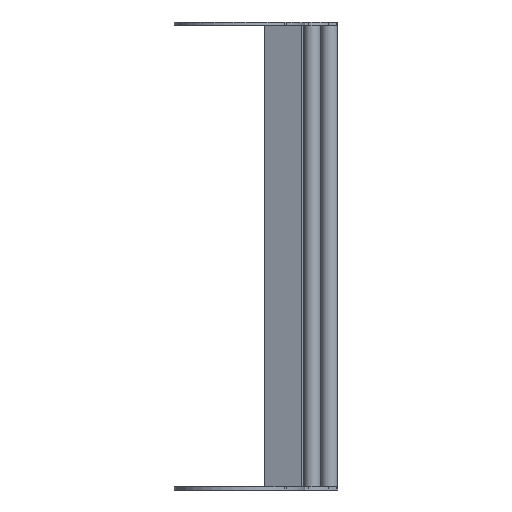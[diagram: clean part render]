
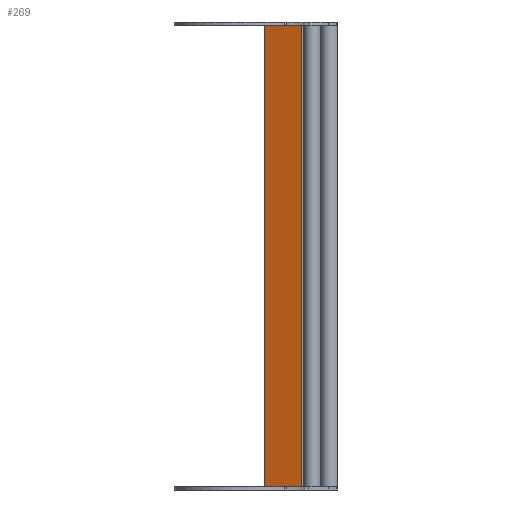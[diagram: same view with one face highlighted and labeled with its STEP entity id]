
A CAD part, front view. The second image highlights one B-rep face of the part: STEP entity #269.
In plain terms, the highlighted planar face has unit normal (-0.342, -0.94, 0).
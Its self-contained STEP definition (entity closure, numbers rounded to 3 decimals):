
#163 = EDGE_CURVE ( 'NONE', #1808, #1030, #2577, .T. ) ;
#269 = ADVANCED_FACE ( 'NONE', ( #5080 ), #4825, .F. ) ;
#273 = VECTOR ( 'NONE', #652, 1000. ) ;
#316 = CARTESIAN_POINT ( 'NONE',  ( 56.745, 61.65, 0. ) ) ;
#409 = DIRECTION ( 'NONE',  ( 0.342, 0.94, 0. ) ) ;
#652 = DIRECTION ( 'NONE',  ( -0.94, 0.342, 0. ) ) ;
#750 = DIRECTION ( 'NONE',  ( 0., 0., 1. ) ) ;
#1030 = VERTEX_POINT ( 'NONE', #4107 ) ;
#1105 = CARTESIAN_POINT ( 'NONE',  ( 56.745, 61.65, -424. ) ) ;
#1147 = ORIENTED_EDGE ( 'NONE', *, *, #1861, .F. ) ;
#1440 = ORIENTED_EDGE ( 'NONE', *, *, #3553, .F. ) ;
#1808 = VERTEX_POINT ( 'NONE', #3262 ) ;
#1861 = EDGE_CURVE ( 'NONE', #2718, #5256, #3232, .T. ) ;
#1911 = CARTESIAN_POINT ( 'NONE',  ( 23.4, 73.787, -424. ) ) ;
#1945 = VECTOR ( 'NONE', #3318, 1000. ) ;
#2211 = LINE ( 'NONE', #1911, #4741 ) ;
#2411 = DIRECTION ( 'NONE',  ( -0.94, 0.342, 0. ) ) ;
#2486 = CARTESIAN_POINT ( 'NONE',  ( 56.745, 61.65, -424. ) ) ;
#2577 = LINE ( 'NONE', #316, #273 ) ;
#2682 = LINE ( 'NONE', #4047, #3653 ) ;
#2718 = VERTEX_POINT ( 'NONE', #1105 ) ;
#2877 = AXIS2_PLACEMENT_3D ( 'NONE', #4842, #409, #2411 ) ;
#2977 = EDGE_CURVE ( 'NONE', #2718, #1808, #2682, .T. ) ;
#3232 = LINE ( 'NONE', #2486, #1945 ) ;
#3262 = CARTESIAN_POINT ( 'NONE',  ( 56.745, 61.65, 0. ) ) ;
#3318 = DIRECTION ( 'NONE',  ( -0.94, 0.342, 0. ) ) ;
#3553 = EDGE_CURVE ( 'NONE', #5256, #1030, #2211, .T. ) ;
#3653 = VECTOR ( 'NONE', #750, 1000. ) ;
#3810 = CARTESIAN_POINT ( 'NONE',  ( 23.4, 73.787, -424. ) ) ;
#3866 = ORIENTED_EDGE ( 'NONE', *, *, #163, .T. ) ;
#3974 = DIRECTION ( 'NONE',  ( 0., 0., 1. ) ) ;
#4047 = CARTESIAN_POINT ( 'NONE',  ( 56.745, 61.65, -424. ) ) ;
#4107 = CARTESIAN_POINT ( 'NONE',  ( 23.4, 73.787, 0. ) ) ;
#4471 = EDGE_LOOP ( 'NONE', ( #3866, #1440, #1147, #4705 ) ) ;
#4705 = ORIENTED_EDGE ( 'NONE', *, *, #2977, .T. ) ;
#4741 = VECTOR ( 'NONE', #3974, 1000. ) ;
#4825 = PLANE ( 'NONE',  #2877 ) ;
#4842 = CARTESIAN_POINT ( 'NONE',  ( 56.745, 61.65, -424. ) ) ;
#5080 = FACE_OUTER_BOUND ( 'NONE', #4471, .T. ) ;
#5256 = VERTEX_POINT ( 'NONE', #3810 ) ;
